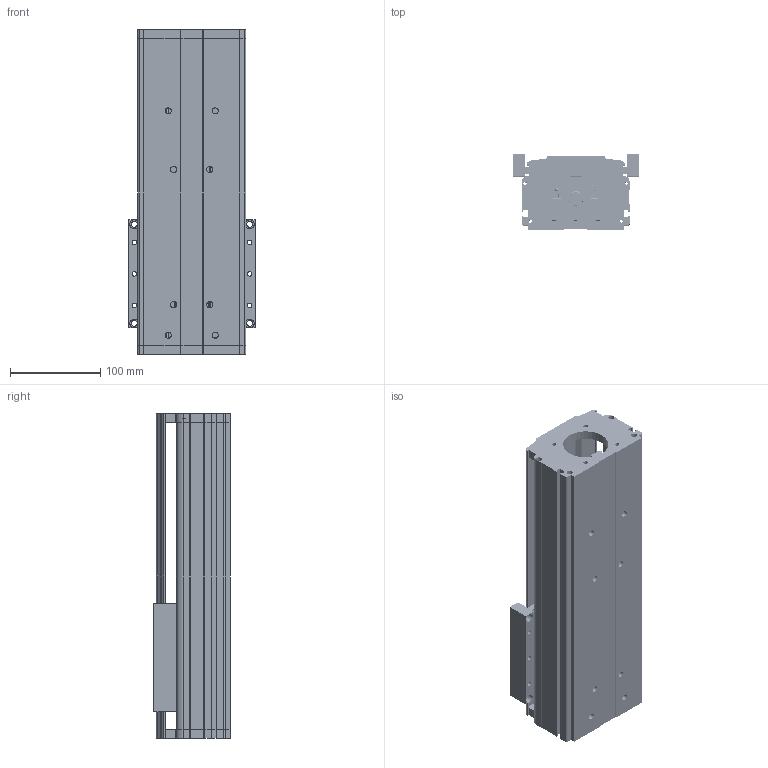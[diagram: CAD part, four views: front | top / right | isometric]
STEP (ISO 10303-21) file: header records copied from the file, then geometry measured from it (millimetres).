
FILE_DESCRIPTION (( 'STEP AP203' ), '1' );
FILE_NAME ('CF120-P150.STEP', '2016-03-10T08:49:45', ( 'Sky123.Org' ), ( 'Sky123.Org' ), 'SwSTEP 2.0', 'SolidWorks 2015', '' );
FILE_SCHEMA (( 'CONFIG_CONTROL_DESIGN' ));
Length unit declared in the file: millimetre
Products named in the file (15): CF120-P350-540臏倰第; EK12; CF120-P350-560裔啣; 粣創結啣; CF120-P150; EF12; CF120賑雄啣; cf120-60萇儂釱; CF120蹟譫釱; CF120傷裔耜啣-sigan; EGR15-P600-880; EGH-15-CABZnew; EK12+EF12-P600-744; SFU1605-3蹟譫
Assembly tree (18 placements, depth 3):
  CF120-P150
    cf120-60萇儂釱
    CF120傷裔耜啣-sigan
    EGH-15-CABZnew  x4
    SFU1605-3蹟譫
    EK12
      EK12
      粣創結啣
    EF12
    CF120賑雄啣
    CF120蹟譫釱
    EGR15-P600-880  x2
    EK12+EF12-P600-744
    CF120-P350-540臏倰第
    CF120-P350-560裔啣
Bounding box: 140 x 84.5 x 360 mm (x, y, z)
Volume: 1576194.5 mm3; surface area: 572298.3 mm2
Topology: 13 solids, 65 shells, 7217 faces, 27312 edges, 18777 vertices
Faces by surface type: plane 3523, bspline 2351, cylinder 953, cone 150, torus 136, sphere 104
Entity records: 128541 total; most frequent: CARTESIAN_POINT 57262, ORIENTED_EDGE 15242, DIRECTION 11805, EDGE_CURVE 8745, VERTEX_POINT 5962, LINE 5143, VECTOR 5143, AXIS2_PLACEMENT_3D 3331
